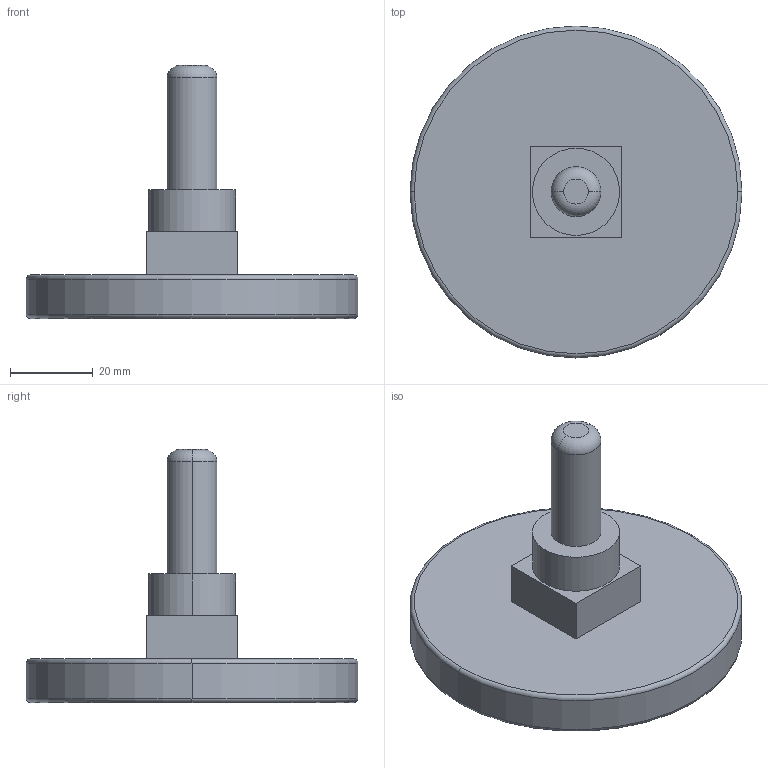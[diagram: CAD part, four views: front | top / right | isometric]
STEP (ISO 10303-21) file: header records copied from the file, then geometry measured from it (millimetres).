
FILE_DESCRIPTION (( 'STEP AP214' ), '1' );
FILE_NAME ('Termometr_bimetaliczny_x_0_3D_AFRISO.STEP', '2022-12-16T13:44:31', ( '' ), ( '' ), 'SwSTEP 2.0', 'SolidWorks 2022', '' );
FILE_SCHEMA (( 'AUTOMOTIVE_DESIGN' ));
Length unit declared in the file: millimetre
Products named in the file (1): Termometr_bimetaliczny_x_0_3D_AFRISO
Bounding box: 80 x 80 x 61 mm (x, y, z)
Volume: 64545.3 mm3; surface area: 15137.6 mm2
Topology: 1 solids, 1 shells, 21 faces, 42 edges, 26 vertices
Faces by surface type: plane 9, torus 6, cylinder 6
Entity records: 586 total; most frequent: DIRECTION 110, CARTESIAN_POINT 90, ORIENTED_EDGE 84, AXIS2_PLACEMENT_3D 46, EDGE_CURVE 42, VERTEX_POINT 26, EDGE_LOOP 24, CIRCLE 24
